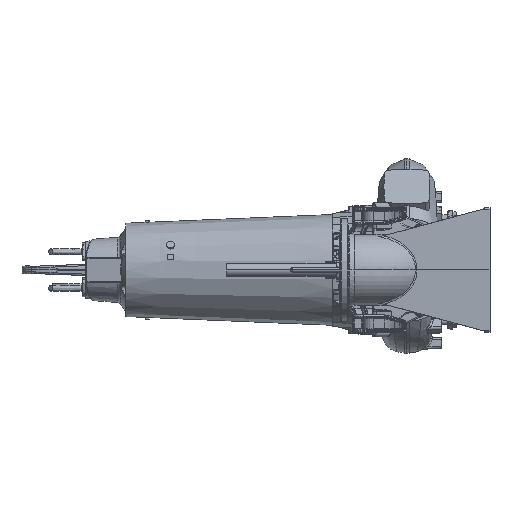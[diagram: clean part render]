
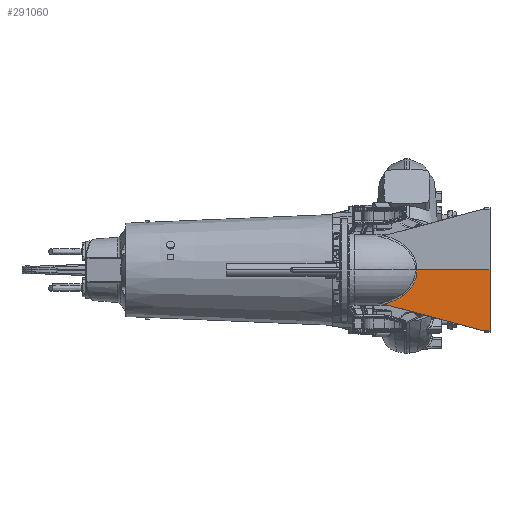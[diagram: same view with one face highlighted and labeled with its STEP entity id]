
A CAD part, left-side view. The second image highlights one B-rep face of the part: STEP entity #291060.
In plain terms, the highlighted planar face has unit normal (-1, 0, -0.018).
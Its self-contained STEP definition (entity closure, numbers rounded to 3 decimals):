
#2519 = EDGE_CURVE ( 'NONE', #133694, #83381, #240249, .T. ) ;
#3549 = CARTESIAN_POINT ( 'NONE',  ( -561.321, 150.673, -214.322 ) ) ;
#13769 = VECTOR ( 'NONE', #27211, 1000. ) ;
#15272 = CARTESIAN_POINT ( 'NONE',  ( -564.207, 210.704, -48.974 ) ) ;
#16303 = CARTESIAN_POINT ( 'NONE',  ( -563.428, 237.962, -93.628 ) ) ;
#17337 = CARTESIAN_POINT ( 'NONE',  ( -562.554, 308.802, -143.659 ) ) ;
#24373 = LINE ( 'NONE', #123911, #142120 ) ;
#27211 = DIRECTION ( 'NONE',  ( -0.005, 0.966, 0.259 ) ) ;
#27538 = CARTESIAN_POINT ( 'NONE',  ( -560., -125.101, -290. ) ) ;
#37971 = CARTESIAN_POINT ( 'NONE',  ( -564.974, 201.881, -5.055 ) ) ;
#38976 = CARTESIAN_POINT ( 'NONE',  ( -564.126, 212.567, -53.639 ) ) ;
#39977 = CARTESIAN_POINT ( 'NONE',  ( -563.269, 246.53, -102.731 ) ) ;
#40989 = CARTESIAN_POINT ( 'NONE',  ( -562.403, 332.199, -152.36 ) ) ;
#51212 = DIRECTION ( 'NONE',  ( -0.017, 0., 1. ) ) ;
#62411 = VERTEX_POINT ( 'NONE', #91970 ) ;
#62509 = ORIENTED_EDGE ( 'NONE', *, *, #70212, .T. ) ;
#62712 = CARTESIAN_POINT ( 'NONE',  ( -563.967, 216.741, -62.723 ) ) ;
#63680 = CARTESIAN_POINT ( 'NONE',  ( -563.094, 257.691, -112.742 ) ) ;
#64680 = CARTESIAN_POINT ( 'NONE',  ( -562.326, 346.619, -156.717 ) ) ;
#70212 = EDGE_CURVE ( 'NONE', #62411, #159516, #288315, .T. ) ;
#81478 = EDGE_CURVE ( 'NONE', #159516, #83381, #24373, .T. ) ;
#81898 = CARTESIAN_POINT ( 'NONE',  ( -562.283, 356.343, -159.213 ) ) ;
#83381 = VERTEX_POINT ( 'NONE', #264839 ) ;
#85330 = CARTESIAN_POINT ( 'NONE',  ( -564.886, 202.103, -10.062 ) ) ;
#86316 = CARTESIAN_POINT ( 'NONE',  ( -563.741, 224.239, -75.669 ) ) ;
#87335 = CARTESIAN_POINT ( 'NONE',  ( -563.013, 263.638, -117.366 ) ) ;
#88334 = CARTESIAN_POINT ( 'NONE',  ( -562.283, 356.343, -159.213 ) ) ;
#88651 = FACE_OUTER_BOUND ( 'NONE', #109566, .T. ) ;
#91970 = CARTESIAN_POINT ( 'NONE',  ( -560.172, -95.092, -280.175 ) ) ;
#101303 = ORIENTED_EDGE ( 'NONE', *, *, #81478, .T. ) ;
#107983 = VECTOR ( 'NONE', #126951, 1000. ) ;
#108958 = CARTESIAN_POINT ( 'NONE',  ( -564.627, 203.899, -24.895 ) ) ;
#109566 = EDGE_LOOP ( 'NONE', ( #210738, #62509, #101303, #279231, #153592 ) ) ;
#109943 = CARTESIAN_POINT ( 'NONE',  ( -563.581, 230.803, -84.861 ) ) ;
#110972 = CARTESIAN_POINT ( 'NONE',  ( -562.974, 266.669, -119.62 ) ) ;
#113440 = EDGE_CURVE ( 'NONE', #62411, #146708, #138889, .T. ) ;
#123911 = CARTESIAN_POINT ( 'NONE',  ( -565.062, -138.101, 0. ) ) ;
#126951 = DIRECTION ( 'NONE',  ( 0., -1., 0. ) ) ;
#128944 = B_SPLINE_CURVE_WITH_KNOTS ( 'NONE', 3,
 ( #202590, #37971, #85330, #249811, #108958, #273509, #132573, #297181, #156267, #15272, #179891, #38976, #203578, #62712, #227153, #86316, #250835, #109943, #274495, #133550, #298192, #157250, #16303, #180902, #39977, #204581, #63680, #228180, #87335, #251848, #110972, #275500, #134563, #299203, #158262, #17337, #181922, #40989, #205583, #64680, #229183, #88334 ),
 .UNSPECIFIED., .F., .F.,
 ( 4, 2, 2, 2, 2, 2, 2, 2, 2, 2, 2, 2, 2, 2, 2, 2, 2, 2, 2, 2, 4 ),
 ( 0., 0.015, 0.03, 0.045, 0.049, 0.052, 0.06, 0.075, 0.09, 0.093, 0.097, 0.105, 0.119, 0.134, 0.138, 0.142, 0.149, 0.179, 0.209, 0.224, 0.239 ),
 .UNSPECIFIED. ) ;
#132573 = CARTESIAN_POINT ( 'NONE',  ( -564.373, 207.372, -39.451 ) ) ;
#133550 = CARTESIAN_POINT ( 'NONE',  ( -563.529, 233.13, -87.845 ) ) ;
#133694 = VERTEX_POINT ( 'NONE', #178587 ) ;
#134563 = CARTESIAN_POINT ( 'NONE',  ( -562.911, 271.801, -123.248 ) ) ;
#138889 = LINE ( 'NONE', #3549, #13769 ) ;
#142120 = VECTOR ( 'NONE', #242141, 1000. ) ;
#146708 = VERTEX_POINT ( 'NONE', #81898 ) ;
#147709 = CARTESIAN_POINT ( 'NONE',  ( -560.172, -138.101, -280.175 ) ) ;
#153592 = ORIENTED_EDGE ( 'NONE', *, *, #285072, .T. ) ;
#156267 = CARTESIAN_POINT ( 'NONE',  ( -564.248, 209.826, -46.612 ) ) ;
#157250 = CARTESIAN_POINT ( 'NONE',  ( -563.461, 236.32, -91.733 ) ) ;
#158262 = CARTESIAN_POINT ( 'NONE',  ( -562.705, 290.908, -135.029 ) ) ;
#159516 = VERTEX_POINT ( 'NONE', #147709 ) ;
#177752 = VECTOR ( 'NONE', #230090, 1000. ) ;
#178587 = CARTESIAN_POINT ( 'NONE',  ( -565.062, 201.954, 0. ) ) ;
#179891 = CARTESIAN_POINT ( 'NONE',  ( -564.187, 211.159, -50.146 ) ) ;
#180902 = CARTESIAN_POINT ( 'NONE',  ( -563.331, 243.008, -99.189 ) ) ;
#181922 = CARTESIAN_POINT ( 'NONE',  ( -562.489, 318.021, -147.422 ) ) ;
#192102 = DIRECTION ( 'NONE',  ( -1., 0., -0.017 ) ) ;
#202590 = CARTESIAN_POINT ( 'NONE',  ( -565.062, 201.954, 0. ) ) ;
#203578 = CARTESIAN_POINT ( 'NONE',  ( -564.086, 213.567, -55.934 ) ) ;
#204581 = CARTESIAN_POINT ( 'NONE',  ( -563.151, 253.872, -109.508 ) ) ;
#205583 = CARTESIAN_POINT ( 'NONE',  ( -562.376, 336.988, -153.89 ) ) ;
#210738 = ORIENTED_EDGE ( 'NONE', *, *, #113440, .F. ) ;
#214738 = PLANE ( 'NONE',  #231872 ) ;
#227153 = CARTESIAN_POINT ( 'NONE',  ( -563.89, 219.092, -67.12 ) ) ;
#228180 = CARTESIAN_POINT ( 'NONE',  ( -563.027, 262.639, -116.603 ) ) ;
#228647 = CARTESIAN_POINT ( 'NONE',  ( -560.172, -125.101, -280.175 ) ) ;
#229183 = CARTESIAN_POINT ( 'NONE',  ( -562.304, 351.467, -158.016 ) ) ;
#230090 = DIRECTION ( 'NONE',  ( 0., -1., 0. ) ) ;
#231872 = AXIS2_PLACEMENT_3D ( 'NONE', #27538, #192102, #51212 ) ;
#240249 = LINE ( 'NONE', #305395, #177752 ) ;
#242141 = DIRECTION ( 'NONE',  ( -0.017, 0., 1. ) ) ;
#249811 = CARTESIAN_POINT ( 'NONE',  ( -564.713, 203.112, -19.981 ) ) ;
#250835 = CARTESIAN_POINT ( 'NONE',  ( -563.669, 227.036, -79.821 ) ) ;
#251848 = CARTESIAN_POINT ( 'NONE',  ( -562.987, 265.652, -118.874 ) ) ;
#264839 = CARTESIAN_POINT ( 'NONE',  ( -565.062, -138.101, 0. ) ) ;
#273509 = CARTESIAN_POINT ( 'NONE',  ( -564.458, 206.029, -34.63 ) ) ;
#274495 = CARTESIAN_POINT ( 'NONE',  ( -563.563, 231.571, -85.863 ) ) ;
#275500 = CARTESIAN_POINT ( 'NONE',  ( -562.936, 269.735, -121.824 ) ) ;
#279231 = ORIENTED_EDGE ( 'NONE', *, *, #2519, .F. ) ;
#285072 = EDGE_CURVE ( 'NONE', #133694, #146708, #128944, .T. ) ;
#288315 = LINE ( 'NONE', #228647, #107983 ) ;
#291060 = ADVANCED_FACE ( 'NONE', ( #88651 ), #214738, .T. ) ;
#297181 = CARTESIAN_POINT ( 'NONE',  ( -564.269, 209.402, -45.42 ) ) ;
#298192 = CARTESIAN_POINT ( 'NONE',  ( -563.512, 233.919, -88.825 ) ) ;
#299203 = CARTESIAN_POINT ( 'NONE',  ( -562.79, 282.233, -130.163 ) ) ;
#305395 = CARTESIAN_POINT ( 'NONE',  ( -565.062, -125.101, 0. ) ) ;
